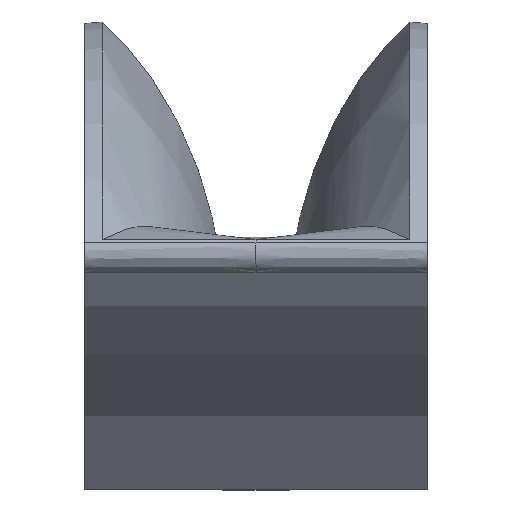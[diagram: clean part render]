
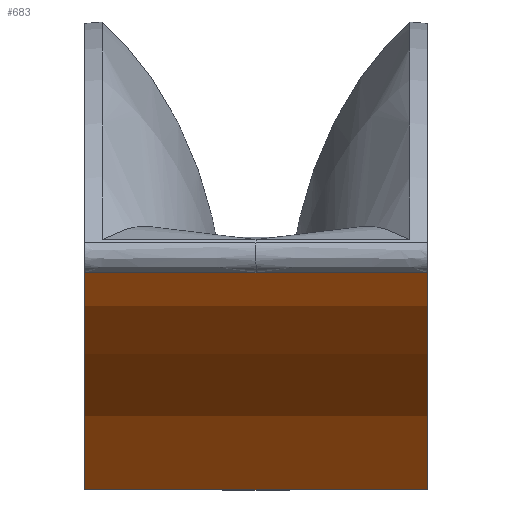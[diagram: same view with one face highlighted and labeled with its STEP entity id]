
A CAD part, left-side view. The second image highlights one B-rep face of the part: STEP entity #683.
In plain terms, the highlighted cylindrical face has radius 443.13 mm (diameter 886.261 mm), a partial arc.
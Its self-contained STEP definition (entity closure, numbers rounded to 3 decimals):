
#16=CYLINDRICAL_SURFACE('',#717,443.13);
#32=CIRCLE('',#713,443.13);
#35=CIRCLE('',#718,443.13);
#64=LINE('',#23828,#100);
#100=VECTOR('',#771,10.);
#140=FACE_OUTER_BOUND('',#185,.T.);
#185=EDGE_LOOP('',(#559,#560,#561,#562,#563));
#220=B_SPLINE_CURVE_WITH_KNOTS('',3,(#8823,#8824,#8825,#8826,#8827,#8828,
#8829,#8830,#8831,#8832,#8833,#8834,#8835),.UNSPECIFIED.,.F.,.F.,(4,2,2,
2,2,1,4),(-0.002,1.208,1.301,4.155,
7.103,10.051,12.998),.UNSPECIFIED.);
#248=B_SPLINE_CURVE_WITH_KNOTS('',3,(#23813,#23814,#23815,#23816,#23817,
#23818,#23819,#23820,#23821,#23822,#23823,#23824,#23825),.UNSPECIFIED.,
 .F.,.F.,(4,2,2,2,2,1,4),(-0.002,1.208,1.301,
4.155,7.103,10.051,12.998),
 .UNSPECIFIED.);
#281=VERTEX_POINT('',#8712);
#282=VERTEX_POINT('',#8822);
#294=VERTEX_POINT('',#13609);
#311=VERTEX_POINT('',#23812);
#312=VERTEX_POINT('',#23826);
#350=EDGE_CURVE('',#282,#281,#220,.T.);
#373=EDGE_CURVE('',#294,#282,#32,.T.);
#401=EDGE_CURVE('',#311,#281,#248,.T.);
#402=EDGE_CURVE('',#312,#311,#35,.T.);
#403=EDGE_CURVE('',#312,#294,#64,.T.);
#559=ORIENTED_EDGE('',*,*,#401,.F.);
#560=ORIENTED_EDGE('',*,*,#402,.F.);
#561=ORIENTED_EDGE('',*,*,#403,.T.);
#562=ORIENTED_EDGE('',*,*,#373,.T.);
#563=ORIENTED_EDGE('',*,*,#350,.T.);
#683=ADVANCED_FACE('',(#140),#16,.F.);
#713=AXIS2_PLACEMENT_3D('',#13818,#747,#748);
#717=AXIS2_PLACEMENT_3D('',#23811,#767,#768);
#718=AXIS2_PLACEMENT_3D('',#23827,#769,#770);
#747=DIRECTION('center_axis',(0.,-1.,0.));
#748=DIRECTION('ref_axis',(0.212,0.,0.977));
#767=DIRECTION('center_axis',(0.,1.,0.));
#768=DIRECTION('ref_axis',(0.212,0.,0.977));
#769=DIRECTION('center_axis',(0.,-1.,0.));
#770=DIRECTION('ref_axis',(0.212,0.,0.977));
#771=DIRECTION('',(0.,-1.,0.));
#8712=CARTESIAN_POINT('',(-309.86,0.,165.126));
#8822=CARTESIAN_POINT('',(-309.828,-130.,165.117));
#8823=CARTESIAN_POINT('Ctrl Pts',(-309.828,-130.,165.117));
#8824=CARTESIAN_POINT('Ctrl Pts',(-309.832,-125.969,165.119));
#8825=CARTESIAN_POINT('Ctrl Pts',(-309.836,-121.937,165.12));
#8826=CARTESIAN_POINT('Ctrl Pts',(-309.84,-117.595,165.121));
#8827=CARTESIAN_POINT('Ctrl Pts',(-309.84,-117.285,165.121));
#8828=CARTESIAN_POINT('Ctrl Pts',(-309.845,-107.462,165.122));
#8829=CARTESIAN_POINT('Ctrl Pts',(-309.839,-97.948,165.12));
#8830=CARTESIAN_POINT('Ctrl Pts',(-309.848,-78.609,165.123));
#8831=CARTESIAN_POINT('Ctrl Pts',(-309.85,-68.783,165.123));
#8832=CARTESIAN_POINT('Ctrl Pts',(-309.855,-49.131,165.125));
#8833=CARTESIAN_POINT('Ctrl Pts',(-309.859,-29.478,165.126));
#8834=CARTESIAN_POINT('Ctrl Pts',(-309.86,-9.826,165.126));
#8835=CARTESIAN_POINT('Ctrl Pts',(-309.86,0.,
165.126));
#13609=CARTESIAN_POINT('',(-67.5,-130.,0.));
#13818=CARTESIAN_POINT('Origin',(-424.132,-130.,-263.017));
#23811=CARTESIAN_POINT('Origin',(-424.132,0.,
-263.017));
#23812=CARTESIAN_POINT('',(-309.828,130.,165.117));
#23813=CARTESIAN_POINT('Ctrl Pts',(-309.828,130.,165.117));
#23814=CARTESIAN_POINT('Ctrl Pts',(-309.832,125.969,165.119));
#23815=CARTESIAN_POINT('Ctrl Pts',(-309.836,121.937,165.12));
#23816=CARTESIAN_POINT('Ctrl Pts',(-309.84,117.595,165.121));
#23817=CARTESIAN_POINT('Ctrl Pts',(-309.84,117.285,165.121));
#23818=CARTESIAN_POINT('Ctrl Pts',(-309.845,107.462,165.122));
#23819=CARTESIAN_POINT('Ctrl Pts',(-309.839,97.948,165.12));
#23820=CARTESIAN_POINT('Ctrl Pts',(-309.848,78.609,165.123));
#23821=CARTESIAN_POINT('Ctrl Pts',(-309.85,68.783,165.123));
#23822=CARTESIAN_POINT('Ctrl Pts',(-309.855,49.131,165.125));
#23823=CARTESIAN_POINT('Ctrl Pts',(-309.859,29.478,165.126));
#23824=CARTESIAN_POINT('Ctrl Pts',(-309.86,9.826,165.126));
#23825=CARTESIAN_POINT('Ctrl Pts',(-309.86,0.,
165.126));
#23826=CARTESIAN_POINT('',(-67.5,130.,0.));
#23827=CARTESIAN_POINT('Origin',(-424.132,130.,-263.017));
#23828=CARTESIAN_POINT('',(-67.5,0.,0.));
